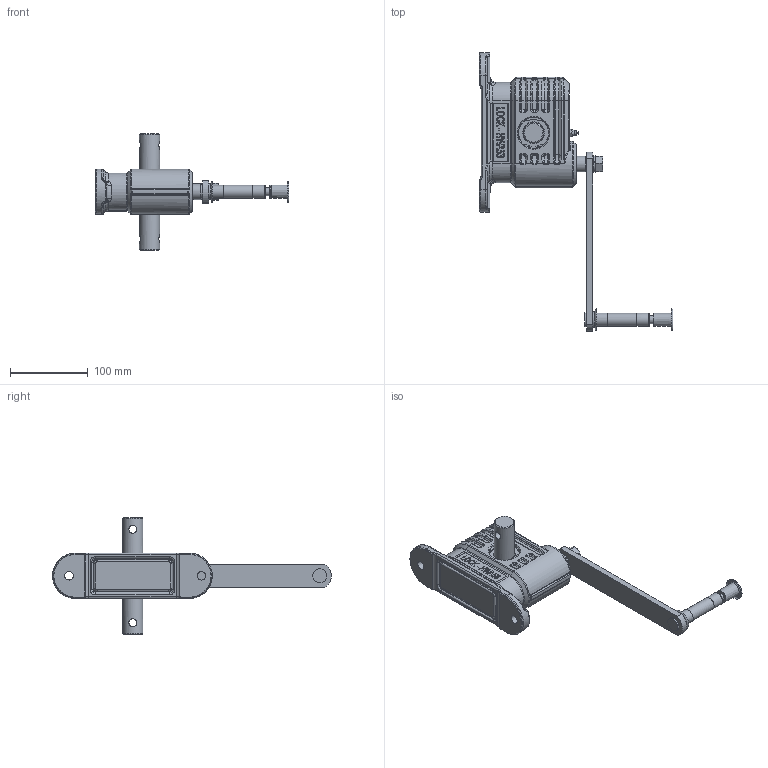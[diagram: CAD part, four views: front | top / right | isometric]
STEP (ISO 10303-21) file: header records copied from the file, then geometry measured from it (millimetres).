
FILE_DESCRIPTION(/* description */ (''),/* implementation_level */ '2;1');
FILE_NAME(/* name */ 'C:\Users\nesvadba\Downloads\52105_0801_06.stp',/* time_stamp */ '2024-02-22T17:44:15+01:00',/* author */ ('nesvadba'),/* organization */ (''),/* preprocessor_version */ 'ST-DEVELOPER v18.1',/* originating_system */ 'Autodesk Inventor 2022',/* authorisation */ '');
FILE_SCHEMA (('CONFIG_CONTROL_DESIGN'));
Products named in the file (1): 52105_0801_06
Bounding box: 249 x 357.96 x 150 mm (x, y, z)
Volume: 532139.3 mm3; surface area: 184191 mm2
Topology: 20 solids, 21 shells, 2420 faces, 6204 edges, 3973 vertices
Faces by surface type: plane 1054, bspline 757, cylinder 363, torus 143, cone 82, sphere 21
Full cylindrical faces by diameter (mm): 1.5 x1, 2.5 x4, 4 x1, 7 x1, 8 x1, 9 x1, 9.9 x1, 10.2 x3, 11 x2, 12 x2, 13.9 x1, 14 x1, 16.4 x1, 16.8 x1, 17.1 x1, 18 x1, 19.9 x1, 20 x2, 21.6 x1, 22.518 x1, 26 x4, 27 x1, 28 x1, 29.5 x1, 40 x8, 41.5 x1, 42 x2, 42.5 x2, 43.6 x1
Entity records: 114990 total; most frequent: CARTESIAN_POINT 59629, ORIENTED_EDGE 12370, DIRECTION 9117, EDGE_CURVE 6185, VERTEX_POINT 3973, LINE 3437, VECTOR 3437, AXIS2_PLACEMENT_3D 2840
